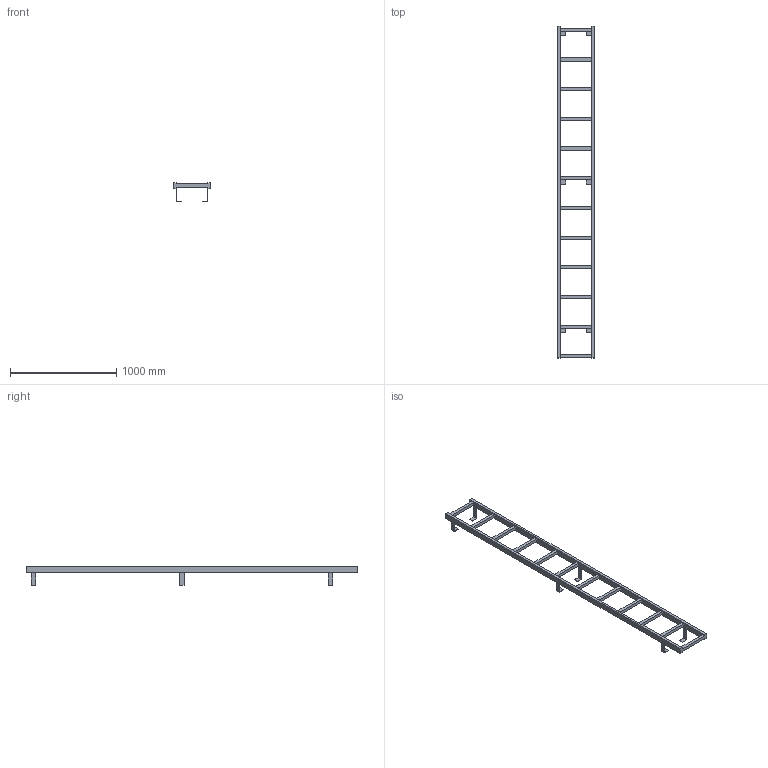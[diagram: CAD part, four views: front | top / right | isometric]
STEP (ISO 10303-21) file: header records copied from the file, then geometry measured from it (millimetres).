
FILE_DESCRIPTION((''),'2;1');
FILE_NAME('017_000109','2017-06-12T',('set'),('HUBER SE'),'PRO/ENGINEER BY PARAMETRIC TECHNOLOGY CORPORATION, 2015280','PRO/ENGINEER BY PARAMETRIC TECHNOLOGY CORPORATION, 2015280','');
FILE_SCHEMA(('CONFIG_CONTROL_DESIGN'));
Length unit declared in the file: millimetre
Products named in the file (1): 017_000109
Bounding box: 350 x 3130 x 178.5 mm (x, y, z)
Volume: 12257940 mm3; surface area: 1531972 mm2
Topology: 1 solids, 1 shells, 106 faces, 413 edges, 303 vertices
Faces by surface type: plane 106
Entity records: 4186 total; most frequent: CARTESIAN_POINT 875, ORIENTED_EDGE 624, DIRECTION 604, VECTOR 366, LINE 366, EDGE_CURVE 312, VERTEX_POINT 202, EDGE_LOOP 122
